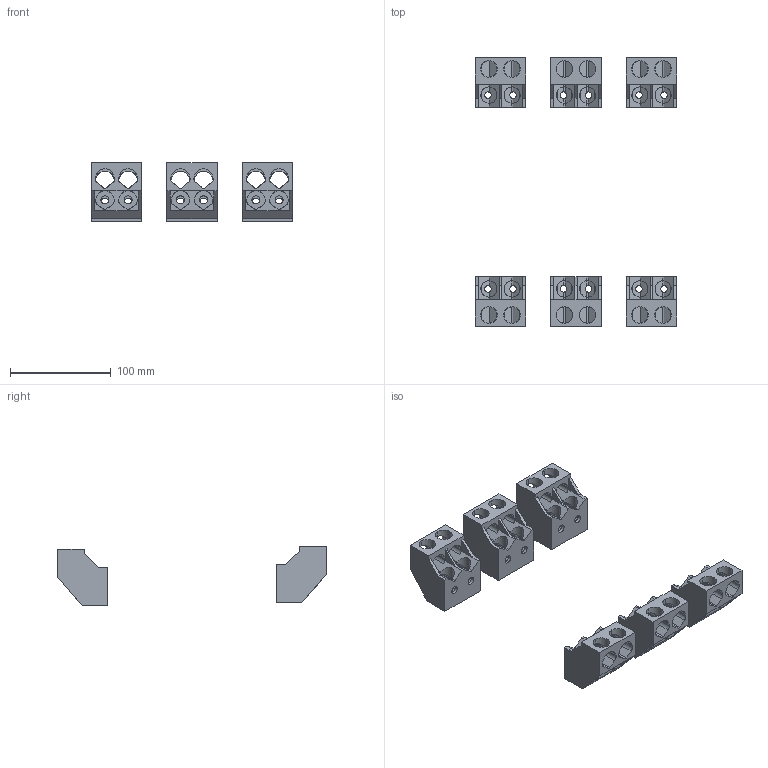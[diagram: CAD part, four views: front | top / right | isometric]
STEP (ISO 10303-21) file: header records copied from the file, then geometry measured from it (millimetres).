
FILE_DESCRIPTION (( 'STEP AP214' ), '1' );
FILE_NAME ('ÂÀ57-39 êîìïëåêò çàæèìîâ 4x120 (êîëîäêà) (2.44).STEP', '2023-08-07T13:09:55', ( '' ), ( '' ), 'SwSTEP 2.0', 'SolidWorks 2018', '' );
FILE_SCHEMA (( 'AUTOMOTIVE_DESIGN' ));
Length unit declared in the file: millimetre
Products named in the file (1): ÂÀ57-39 êîìïëåêò çàæèìîâ 4x120 (êîëîäêà) (2.44)
Bounding box: 200 x 266.4 x 58.44 mm (x, y, z)
Volume: 326301.2 mm3; surface area: 123672.8 mm2
Topology: 6 solids, 6 shells, 492 faces, 1512 edges, 984 vertices
Faces by surface type: cylinder 252, plane 240
Entity records: 25271 total; most frequent: CARTESIAN_POINT 6205, ORIENTED_EDGE 3024, DIRECTION 2678, EDGE_CURVE 1512, VERTEX_POINT 984, LINE 948, VECTOR 948, AXIS2_PLACEMENT_3D 865
